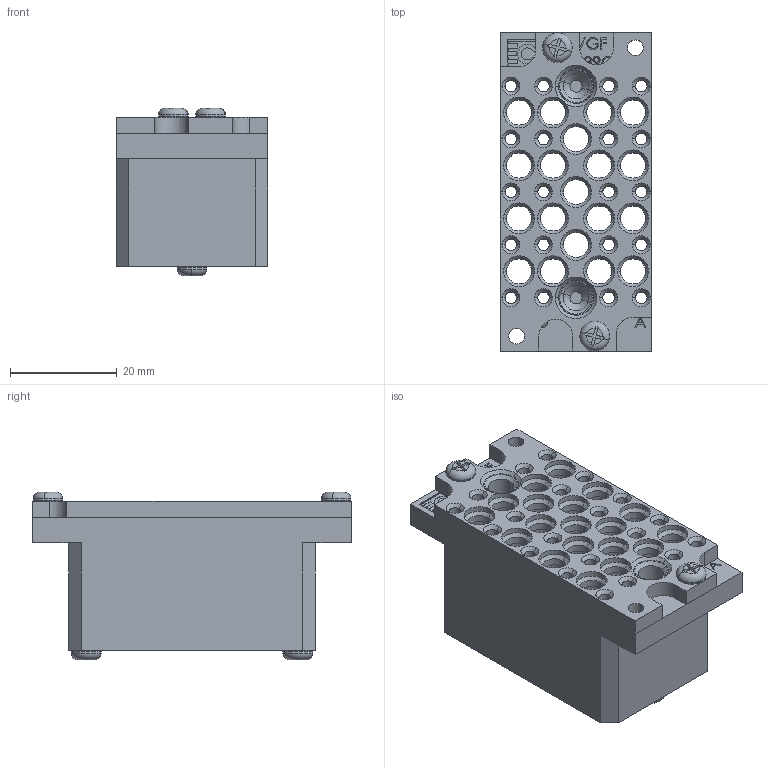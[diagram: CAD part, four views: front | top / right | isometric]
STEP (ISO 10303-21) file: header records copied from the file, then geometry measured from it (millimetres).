
FILE_DESCRIPTION (( 'STEP AP214' ), '1' );
FILE_NAME ('905_BA.STEP', '2017-04-13T16:56:40', ( '' ), ( '' ), 'SwSTEP 2.0', 'SolidWorks 2014', '' );
FILE_SCHEMA (( 'AUTOMOTIVE_DESIGN' ));
Length unit declared in the file: millimetre
Products named in the file (6): PAN PHILIP SCREW (INCHES)_#4-40 UNC X 0.5" (VG); PAN PHILIP SCREW (INCHES)_#4-40 UNC X 0.250" (VG); 31053a1; 34423b1D; B34424; 905_BA
Assembly tree (8 placements, depth 2):
  905_BA
    B34424
    34423b1D
    31053a1  x2
    PAN PHILIP SCREW (INCHES)_#4-40 UNC X 0.250" (VG)  x2
    PAN PHILIP SCREW (INCHES)_#4-40 UNC X 0.5" (VG)  x2
Bounding box: 28.32 x 59.56 x 31.39 mm (x, y, z)
Volume: 23693.9 mm3; surface area: 25062.3 mm2
Topology: 8 solids, 8 shells, 1218 faces, 2993 edges, 1942 vertices
Faces by surface type: cylinder 468, plane 458, bspline 174, cone 102, torus 16
Entity records: 48438 total; most frequent: CARTESIAN_POINT 16644, ORIENTED_EDGE 5618, DIRECTION 5363, EDGE_CURVE 2809, AXIS2_PLACEMENT_3D 1957, VERTEX_POINT 1826, EDGE_LOOP 1469, VECTOR 1449
